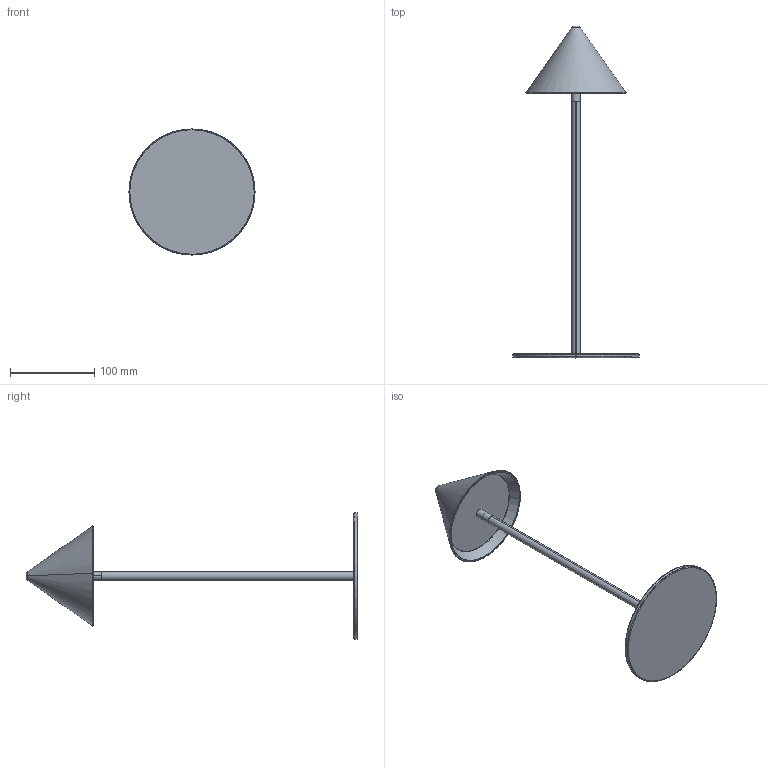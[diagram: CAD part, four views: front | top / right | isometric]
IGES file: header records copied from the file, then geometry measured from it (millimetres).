
Start section: SolidWorks IGES file using analytic representation for surfaces
Global section: file name: C:\Users\Agustin\Desktop\ENERO 2025\2D-3D\2D-3D ANZA 1336\2D-3D ANZA_S1336\ANZA_S1336.IGS; native system: SolidWorks 2018; preprocessor: SolidWorks 2018; author: Agustin; date: 250117.150813; units: millimetre
Bounding box: 150 x 395 x 150 mm (x, y, z)
Surface area: 102602 mm2 (no closed solid volume)
Topology: 0 solids, 0 shells, 34 faces, 728 edges, 728 vertices
Faces by surface type: bspline 20, revolution 14
